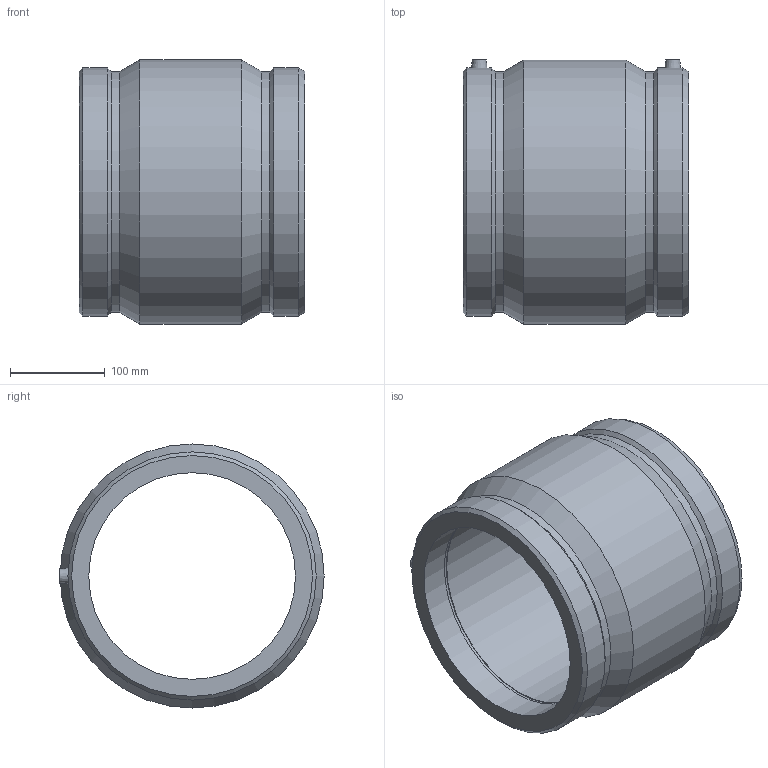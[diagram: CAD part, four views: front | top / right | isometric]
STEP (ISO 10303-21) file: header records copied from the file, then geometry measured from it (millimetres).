
FILE_DESCRIPTION(/* description */ ('PLASSON IPS COUPLER 8'''''),/* implementation_level */ '2;1');
FILE_NAME(/* name */ 'C:\Dropbox\KIMPROJECTS-Inventor 2019\99-16-3568-Processing Inch\ASTM ElectroFusion 2021\5901B\(_AS)5901B004080.ipt.stp',/* time_stamp */ '2021-08-30T09:48:36+03:00',/* author */ ('KIM'),/* organization */ (''),/* preprocessor_version */ 'ST-DEVELOPER v17.2',/* originating_system */ 'Autodesk Inventor 2019',/* authorisation */ '');
FILE_SCHEMA (('AUTOMOTIVE_DESIGN { 1 0 10303 214 3 1 1 }'));
Length unit declared in the file: inch
Products named in the file (1): *5901B004080
Bounding box: 239.01 x 279.65 x 279.4 mm (x, y, z)
Volume: 4733354.3 mm3; surface area: 407310.3 mm2
Topology: 1 solids, 1 shells, 32 faces, 76 edges, 54 vertices
Faces by surface type: cylinder 12, plane 10, cone 10
Full cylindrical faces by diameter (mm): 4 x2, 10 x2, 218.7 x3, 254.757 x2, 262.636 x2, 279.4 x1
Entity records: 1077 total; most frequent: CARTESIAN_POINT 231, DIRECTION 188, ORIENTED_EDGE 152, AXIS2_PLACEMENT_3D 83, EDGE_CURVE 76, VERTEX_POINT 54, CIRCLE 50, EDGE_LOOP 42
